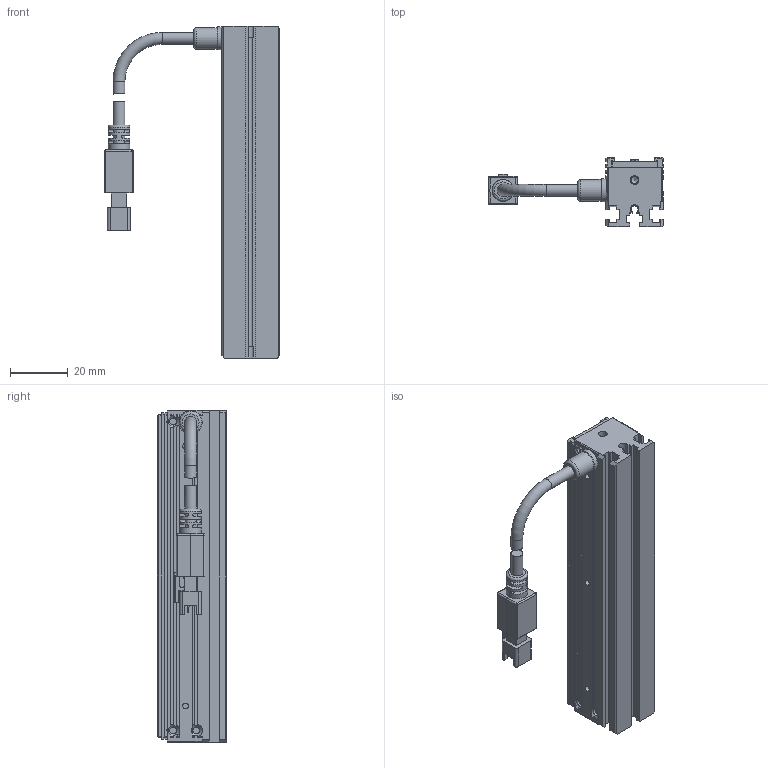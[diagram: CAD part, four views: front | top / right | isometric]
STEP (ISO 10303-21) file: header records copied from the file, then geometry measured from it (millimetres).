
FILE_DESCRIPTION (( 'STEP AP203' ), '1' );
FILE_NAME ('OPT-ILI11520-IR-V1.0U尨砩芞.STEP', '2025-01-18T07:42:15', ( '' ), ( '' ), 'SwSTEP 2.0', 'SolidWorks 2016', '' );
FILE_SCHEMA (( 'CONFIG_CONTROL_DESIGN' ));
Length unit declared in the file: millimetre
Products named in the file (1): OPT-ILI11520-IR-V1.0U尨砩芞
Bounding box: 60.6 x 24 x 115 mm (x, y, z)
Volume: 46459 mm3; surface area: 23155.7 mm2
Topology: 5 solids, 15 shells, 617 faces, 1608 edges, 1038 vertices
Faces by surface type: plane 420, cylinder 137, cone 30, bspline 20, torus 10
Full cylindrical faces by diameter (mm): 1.1 x2, 1.4 x4, 1.6 x7, 1.8 x2, 2 x13, 2.4 x7, 2.5 x2, 2.6 x2, 3 x2, 3.5 x1, 4.1 x3, 7.5 x2, 8 x1
Entity records: 18819 total; most frequent: CARTESIAN_POINT 4292, ORIENTED_EDGE 2974, DIRECTION 2876, EDGE_CURVE 1487, VECTOR 1026, LINE 1026, VERTEX_POINT 997, AXIS2_PLACEMENT_3D 925
